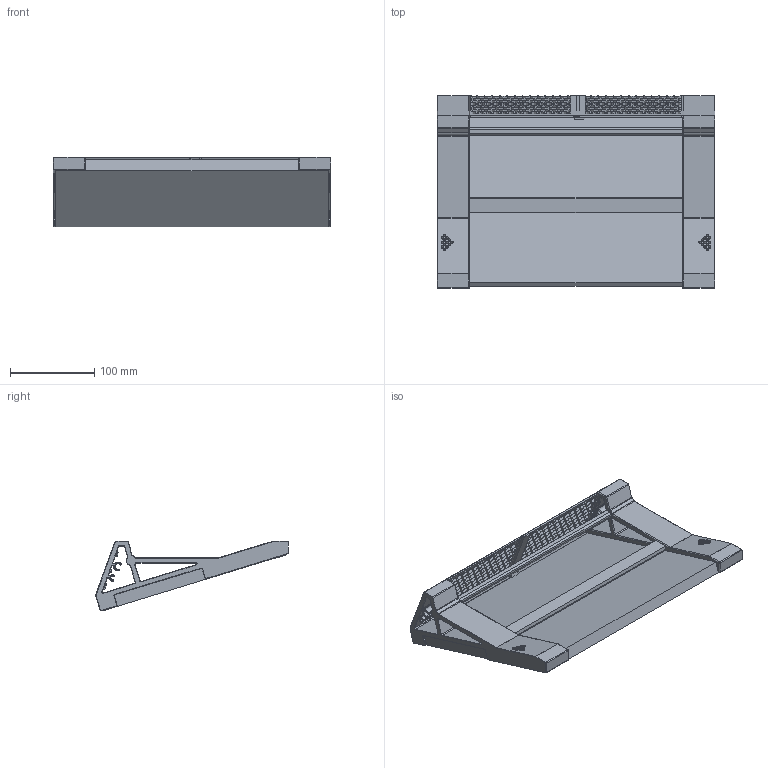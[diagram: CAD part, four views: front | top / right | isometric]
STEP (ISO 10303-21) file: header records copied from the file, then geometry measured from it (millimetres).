
FILE_DESCRIPTION((''),'2;1');
FILE_NAME('LAPTOP_STAND_ASM','2020-11-13T16:09:50',('scc0011'),(''),'CREO PARAMETRIC BY PTC INC, 2018190','CREO PARAMETRIC BY PTC INC, 2018190','');
FILE_SCHEMA(('AP242_MANAGED_MODEL_BASED_3D_ENGINEERING_MIM_LF { 1 0 10303 442 1 1 4 }'));
Products named in the file (17): LAPTOP_STAND_1; 00000_LEER; LAPTOP_STAND_1_MIR; LAPTOP; MEREVITO_1; MEREVITO_2; LAPTOPALVANY_FEDEL; LAPTOPALVANY_FEDEL_1; LAPTOPALVANY_FEDEL_2; LAPTOP_STAND_ASM
Assembly tree (8 placements, depth 2):
  00000_LEER
  00000_LEER
  00000_LEER
  00000_LEER
  00000_LEER
Bounding box: 329 x 228.51 x 82.81 mm (x, y, z)
Volume: 1336813.6 mm3; surface area: 362817.7 mm2
Topology: 8 solids, 10 shells, 4340 faces, 12597 edges, 8154 vertices
Faces by surface type: plane 3507, cylinder 512, torus 109, cone 100, sphere 90, bspline 22
Entity records: 197943 total; most frequent: CARTESIAN_POINT 25768, ORIENTED_EDGE 25162, DIRECTION 22526, PRESENTATION_STYLE_ASSIGNMENT 14716, STYLED_ITEM 14716, CURVE_STYLE 12581, EDGE_CURVE 12581, VECTOR 11292
